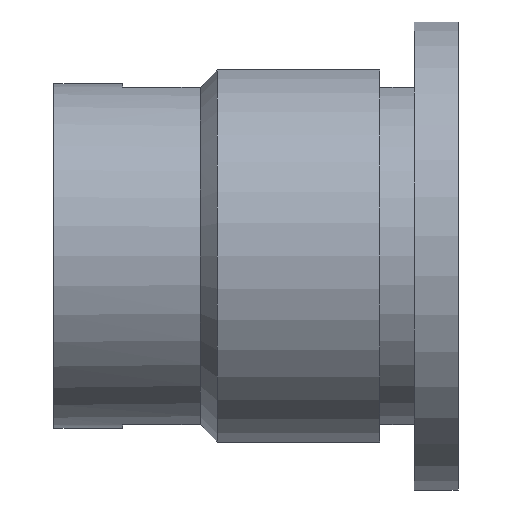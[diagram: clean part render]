
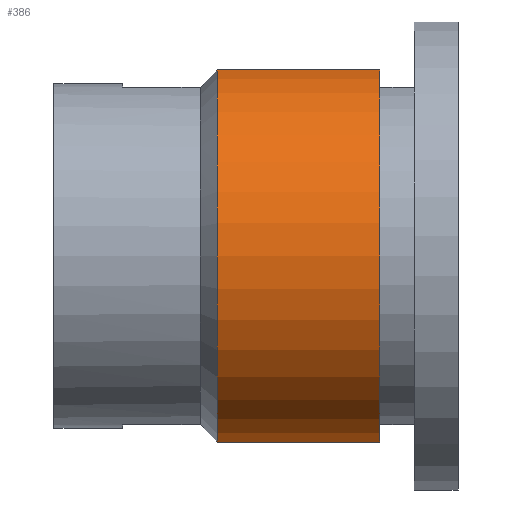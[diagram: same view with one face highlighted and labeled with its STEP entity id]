
A CAD part, front view. The second image highlights one B-rep face of the part: STEP entity #386.
In plain terms, the highlighted cylindrical face has radius 2.2 mm (diameter 4.4 mm), a partial arc.
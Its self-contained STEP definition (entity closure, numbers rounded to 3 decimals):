
#84 = AXIS2_PLACEMENT_3D ( 'NONE', #978, #187, #759 ) ;
#126 = EDGE_CURVE ( 'NONE', #700, #556, #605, .T. ) ;
#140 = VERTEX_POINT ( 'NONE', #932 ) ;
#171 = VECTOR ( 'NONE', #806, 1000. ) ;
#175 = EDGE_LOOP ( 'NONE', ( #802, #626, #874, #813 ) ) ;
#177 = CARTESIAN_POINT ( 'NONE',  ( -2.8, -0.4, -2.163 ) ) ;
#182 = CYLINDRICAL_SURFACE ( 'NONE', #724, 2.2 ) ;
#187 = DIRECTION ( 'NONE',  ( 1., 0., 0. ) ) ;
#197 = EDGE_CURVE ( 'NONE', #700, #416, #777, .T. ) ;
#213 = DIRECTION ( 'NONE',  ( 1., 0., 0. ) ) ;
#232 = EDGE_CURVE ( 'NONE', #140, #416, #477, .T. ) ;
#256 = FACE_OUTER_BOUND ( 'NONE', #175, .T. ) ;
#331 = CARTESIAN_POINT ( 'NONE',  ( 11.788, -0.4, -2.163 ) ) ;
#353 = AXIS2_PLACEMENT_3D ( 'NONE', #897, #643, #563 ) ;
#386 = ADVANCED_FACE ( 'NONE', ( #256 ), #182, .T. ) ;
#416 = VERTEX_POINT ( 'NONE', #177 ) ;
#430 = DIRECTION ( 'NONE',  ( 1., 0., 0. ) ) ;
#477 = LINE ( 'NONE', #331, #171 ) ;
#493 = CARTESIAN_POINT ( 'NONE',  ( 11.788, 0., 0. ) ) ;
#521 = CARTESIAN_POINT ( 'NONE',  ( -0.91, -0.4, 2.163 ) ) ;
#556 = VERTEX_POINT ( 'NONE', #521 ) ;
#563 = DIRECTION ( 'NONE',  ( 0., 0., -1. ) ) ;
#564 = CIRCLE ( 'NONE', #84, 2.2 ) ;
#605 = LINE ( 'NONE', #770, #814 ) ;
#626 = ORIENTED_EDGE ( 'NONE', *, *, #749, .F. ) ;
#643 = DIRECTION ( 'NONE',  ( 1., 0., 0. ) ) ;
#700 = VERTEX_POINT ( 'NONE', #877 ) ;
#724 = AXIS2_PLACEMENT_3D ( 'NONE', #493, #430, #921 ) ;
#749 = EDGE_CURVE ( 'NONE', #556, #140, #564, .T. ) ;
#759 = DIRECTION ( 'NONE',  ( 0., 0., 1. ) ) ;
#770 = CARTESIAN_POINT ( 'NONE',  ( 11.788, -0.4, 2.163 ) ) ;
#777 = CIRCLE ( 'NONE', #353, 2.2 ) ;
#802 = ORIENTED_EDGE ( 'NONE', *, *, #232, .F. ) ;
#806 = DIRECTION ( 'NONE',  ( -1., 0., 0. ) ) ;
#813 = ORIENTED_EDGE ( 'NONE', *, *, #197, .T. ) ;
#814 = VECTOR ( 'NONE', #213, 1000. ) ;
#874 = ORIENTED_EDGE ( 'NONE', *, *, #126, .F. ) ;
#877 = CARTESIAN_POINT ( 'NONE',  ( -2.8, -0.4, 2.163 ) ) ;
#897 = CARTESIAN_POINT ( 'NONE',  ( -2.8, 0., 0. ) ) ;
#921 = DIRECTION ( 'NONE',  ( 0., 0., -1. ) ) ;
#932 = CARTESIAN_POINT ( 'NONE',  ( -0.91, -0.4, -2.163 ) ) ;
#978 = CARTESIAN_POINT ( 'NONE',  ( -0.91, 0., 0. ) ) ;
